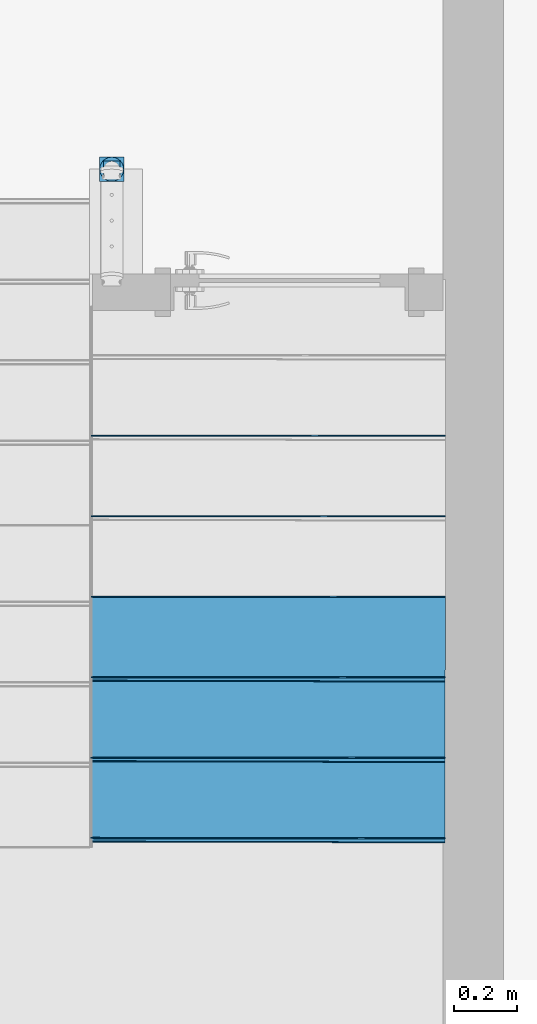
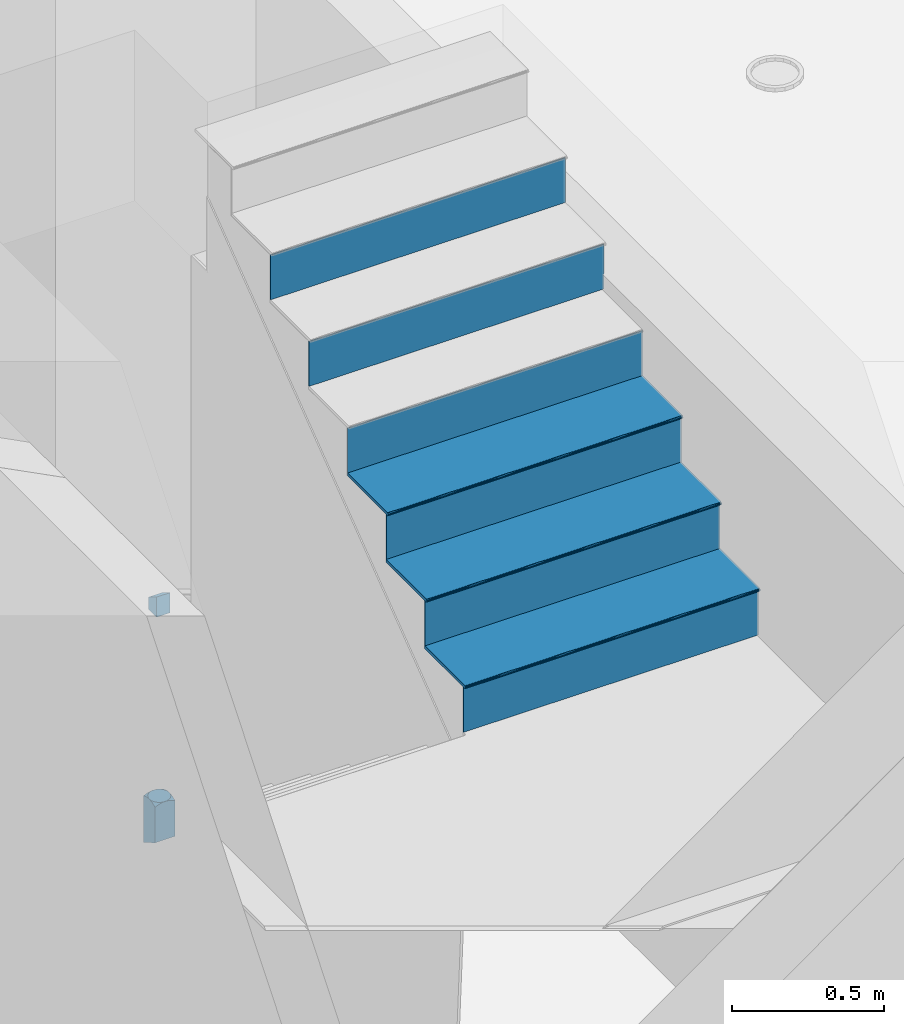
# One storey, part 5 of 24: 10 building element parts, 2 elements without a shape of their own.
"""IFC2X3 building model written with IfcOpenShell, lengths in inches."""

from ifc_helpers import new_model, entity, si_unit, converted_unit, derived_unit, money_unit, direction, frame, origin_with_axes, place, context, subcontext, project, spatial, faceted_brep, material, type_object, element, aggregate, save


model = new_model("IFC2X3")

# Units and contexts
model_context = context("Model", 3, precision=0.000393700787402, world=origin_with_axes(), true_north=direction((0.0, 1.0)))
body_context = subcontext(model_context, "Body", "Model", "MODEL_VIEW")
ifc_project = project(units=[converted_unit("LENGTHUNIT", "INCH", entity("IfcPositiveLengthMeasure", 0.0254), si_unit("LENGTHUNIT", "METRE"), dimensions=[1, 0, 0, 0, 0, 0, 0]), converted_unit("AREAUNIT", "SQUARE_FOOT", entity("IfcPositiveLengthMeasure", 0.09290304), si_unit("AREAUNIT", "SQUARE_METRE"), dimensions=[2, 0, 0, 0, 0, 0, 0]), si_unit("PLANEANGLEUNIT", "RADIAN"), si_unit("SOLIDANGLEUNIT", "STERADIAN"), money_unit("USD"), converted_unit("TIMEUNIT", "Year", entity("IfcTimeMeasure", 31556926.0), si_unit("TIMEUNIT", "SECOND"), dimensions=[0, 0, 1, 0, 0, 0, 0]), si_unit("MASSUNIT", "GRAM", prefix="KILO"), si_unit("THERMODYNAMICTEMPERATUREUNIT", "DEGREE_CELSIUS"), si_unit("LUMINOUSINTENSITYUNIT", "LUMEN"), si_unit("ENERGYUNIT", "JOULE", prefix="MEGA"), derived_unit("THERMALCONDUCTANCEUNIT", [(si_unit("POWERUNIT", "WATT"), 1), (si_unit("LENGTHUNIT", "METRE"), -1), (si_unit("THERMODYNAMICTEMPERATUREUNIT", "KELVIN"), -1)]), derived_unit("SPECIFICHEATCAPACITYUNIT", [(si_unit("ENERGYUNIT", "JOULE"), 1), (si_unit("MASSUNIT", "GRAM", prefix="KILO"), -1), (si_unit("THERMODYNAMICTEMPERATUREUNIT", "KELVIN"), -1)]), derived_unit("MASSDENSITYUNIT", [(si_unit("MASSUNIT", "GRAM", prefix="KILO"), 1), (si_unit("VOLUMEUNIT", "CUBIC_METRE"), -1)])], contexts=[model_context])

# Site, building, storey
site_placement = place(None, origin_with_axes())
site = spatial("IfcSite", under=ifc_project, at=site_placement, Name="Site", CompositionType="ELEMENT")
building_placement = place(site_placement, origin_with_axes())
building = spatial("IfcBuilding", under=site, at=building_placement, Name="Building", CompositionType="ELEMENT")
storey_placement = place(building_placement, origin_with_axes())
storey = spatial("IfcBuildingStorey", under=building, at=storey_placement, Name="First Floor", CompositionType="ELEMENT", Elevation=0.0)

# Stair, building element parts
stair_placement = place(storey_placement, frame((683.15053629, 154.289481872, 0.0), z_axis=(0.0, 0.0, 1.0), x_axis=(1.0, 0.0, 0.0)))
stair = element("IfcStair", 1, at=stair_placement, inside=storey, Name="STAIR-30", ShapeType="NOTDEFINED")
ifc_material_1 = material(Name="Timber - Floor")
building_element_part_1_placement = place(stair_placement, origin_with_axes())
building_element_part_1 = element("IfcBuildingElementPart", 2, at=building_element_part_1_placement, material=ifc_material_1, Name="Timber - Floor", context=body_context, shape_type="Brep", body=[
    faceted_brep([(44.1430763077, -79.541736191, 75.2874015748), (44.1431897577, -79.4167362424, 75.2874015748), (0.140546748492, -79.3751105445, 75.2874015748), (0.140428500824, -79.5001104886, 75.2874015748), (44.1430763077, -79.541736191, 68.2086614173), (44.1431897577, -79.4167362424, 68.2086614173), (0.140546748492, -79.3751105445, 68.2086614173), (0.140428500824, -79.5001104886, 68.2086614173)], [[[0, 1, 2, 3]], [[0, 4, 5, 1]], [[1, 5, 6, 2]], [[3, 2, 6, 7]], [[4, 0, 3, 7]], [[5, 4, 7, 6]]]),
])
building_element_part_2_placement = place(stair_placement, origin_with_axes())
building_element_part_2 = element("IfcBuildingElementPart", 3, at=building_element_part_2_placement, material=ifc_material_1, Name="Timber - Floor", context=body_context, shape_type="Brep", body=[
    faceted_brep([(44.152152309, -69.5417403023, 82.8661417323), (44.152265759, -69.4167403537, 82.8661417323), (0.150006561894, -69.3751150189, 82.8661417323), (0.149888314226, -69.500114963, 82.8661417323), (44.152152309, -69.5417403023, 75.7874015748), (44.152265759, -69.4167403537, 75.7874015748), (0.150006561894, -69.3751150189, 75.7874015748), (0.149888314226, -69.500114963, 75.7874015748)], [[[0, 1, 2, 3]], [[0, 4, 5, 1]], [[1, 5, 6, 2]], [[3, 2, 6, 7]], [[4, 0, 3, 7]], [[5, 4, 7, 6]]]),
])
building_element_part_3_placement = place(stair_placement, origin_with_axes())
building_element_part_3 = element("IfcBuildingElementPart", 4, at=building_element_part_3_placement, material=ifc_material_1, Name="Timber - Floor", context=body_context, shape_type="Brep", body=[
    faceted_brep([(44.1612283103, -59.5417444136, 90.4448818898), (44.1613417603, -59.416744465, 90.4448818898), (0.159466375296, -59.3751194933, 90.4448818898), (0.159348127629, -59.5001194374, 90.4448818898), (44.1612283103, -59.5417444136, 83.3661417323), (44.1613417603, -59.416744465, 83.3661417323), (0.159466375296, -59.3751194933, 83.3661417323), (0.159348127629, -59.5001194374, 83.3661417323)], [[[0, 1, 2, 3]], [[0, 4, 5, 1]], [[1, 5, 6, 2]], [[3, 2, 6, 7]], [[4, 0, 3, 7]], [[5, 4, 7, 6]]]),
])
building_element_part_4_placement = place(stair_placement, origin_with_axes())
building_element_part_4 = element("IfcBuildingElementPart", 5, at=building_element_part_4_placement, material=ifc_material_1, Name="Timber - Floor", context=body_context, shape_type="Brep", body=[
    faceted_brep([(44.1703043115, -49.541748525, 98.0236220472), (44.1704177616, -49.4167485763, 98.0236220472), (0.168926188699, -49.3751239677, 98.0236220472), (0.168807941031, -49.5001239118, 98.0236220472), (44.1703043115, -49.541748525, 90.9448818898), (44.1704177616, -49.4167485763, 90.9448818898), (0.168926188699, -49.3751239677, 90.9448818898), (0.168807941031, -49.5001239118, 90.9448818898)], [[[0, 1, 2, 3]], [[0, 4, 5, 1]], [[1, 5, 6, 2]], [[3, 2, 6, 7]], [[4, 0, 3, 7]], [[5, 4, 7, 6]]]),
])
building_element_part_5_placement = place(stair_placement, origin_with_axes())
building_element_part_5 = element("IfcBuildingElementPart", 6, at=building_element_part_5_placement, material=ifc_material_1, Name="Timber - Floor", context=body_context, shape_type="Brep", body=[
    faceted_brep([(44.1793803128, -39.5417526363, 105.602362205), (44.1794937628, -39.4167526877, 105.602362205), (0.178386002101, -39.3751284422, 105.602362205), (0.178267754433, -39.5001283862, 105.602362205), (44.1793803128, -39.5417526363, 98.5236220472), (44.1794937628, -39.4167526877, 98.5236220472), (0.178386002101, -39.3751284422, 98.5236220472), (0.178267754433, -39.5001283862, 98.5236220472)], [[[0, 1, 2, 3]], [[0, 4, 5, 1]], [[1, 5, 6, 2]], [[3, 2, 6, 7]], [[4, 0, 3, 7]], [[5, 4, 7, 6]]]),
])
building_element_part_6_placement = place(stair_placement, origin_with_axes())
building_element_part_6 = element("IfcBuildingElementPart", 7, at=building_element_part_6_placement, material=ifc_material_1, Name="Timber - Floor", context=body_context, shape_type="Brep", body=[
    faceted_brep([(44.1884563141, -29.5417567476, 113.181102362), (44.1885697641, -29.416756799, 113.181102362), (0.187845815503, -29.3751329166, 113.181102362), (0.187727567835, -29.5001328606, 113.181102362), (44.1884563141, -29.5417567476, 106.102362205), (44.1885697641, -29.416756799, 106.102362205), (0.187845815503, -29.3751329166, 106.102362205), (0.187727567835, -29.5001328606, 106.102362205)], [[[0, 1, 2, 3]], [[0, 4, 5, 1]], [[1, 5, 6, 2]], [[3, 2, 6, 7]], [[4, 0, 3, 7]], [[5, 4, 7, 6]]]),
])
building_element_part_7_placement = place(stair_placement, origin_with_axes())
building_element_part_7 = element("IfcBuildingElementPart", 8, at=building_element_part_7_placement, material=ifc_material_1, Name="Timber - Floor", context=body_context, shape_type="Brep", body=[
    faceted_brep([(0.139969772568, -79.9850335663, 75.451896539), (0.139987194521, -79.9666167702, 75.4124015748), (44.1426540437, -80.0082426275, 75.4124015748), (44.1426366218, -80.0266594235, 75.451896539), (0.13995910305, -79.9963123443, 75.4939895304), (0.139955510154, -80.0001104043, 75.5374015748), (0.13995910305, -79.9963123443, 75.5808136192), (0.139969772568, -79.9850335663, 75.6229066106), (0.139987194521, -79.9666167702, 75.6624015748), (0.140010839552, -79.9416215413, 75.6980984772), (0.140039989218, -79.9108073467, 75.7289126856), (0.140073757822, -79.8751104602, 75.7539079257), (0.140111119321, -79.8356155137, 75.77232473), (0.140150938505, -79.7935225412, 75.7836035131), (0.140192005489, -79.7501105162, 75.7874015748), (0.15000683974, -69.3751145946, 75.7874015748), (0.15000683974, -69.3751145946, 75.2874015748), (0.140192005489, -79.7501105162, 75.2874015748), (0.140150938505, -79.7935225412, 75.2911996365), (0.140111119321, -79.8356155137, 75.3024784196), (0.140073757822, -79.8751104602, 75.3208952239), (0.140039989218, -79.9108073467, 75.345890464), (0.140010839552, -79.9416215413, 75.3767046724), (44.1426776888, -79.9832473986, 75.3767046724), (44.1522657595, -69.4167397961, 75.2874015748), (44.1522657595, -69.4167397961, 75.7874015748), (44.1428588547, -79.7917363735, 75.7874015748), (44.1428177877, -79.8351483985, 75.7836035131), (44.1427779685, -79.877241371, 75.77232473), (44.142740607, -79.9167363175, 75.7539079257), (44.1427068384, -79.952433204, 75.7289126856), (44.1426776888, -79.9832473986, 75.6980984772), (44.1426540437, -80.0082426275, 75.6624015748), (44.1426366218, -80.0266594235, 75.6229066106), (44.1426259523, -80.0379382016, 75.5808136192), (44.1426223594, -80.0417362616, 75.5374015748), (44.1426259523, -80.0379382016, 75.4939895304), (44.1427068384, -79.952433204, 75.345890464), (44.142740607, -79.9167363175, 75.3208952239), (44.1427779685, -79.877241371, 75.3024784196), (44.1428177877, -79.8351483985, 75.2911996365), (44.1428588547, -79.7917363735, 75.2874015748)], [[[0, 1, 2, 3]], [[1, 0, 4, 5, 6, 7, 8, 9, 10, 11, 12, 13, 14, 15, 16, 17, 18, 19, 20, 21, 22]], [[1, 22, 23, 2]], [[24, 25, 26, 27, 28, 29, 30, 31, 32, 33, 34, 35, 36, 3, 2, 23, 37, 38, 39, 40, 41]], [[4, 0, 3, 36]], [[5, 4, 36, 35]], [[6, 5, 35, 34]], [[7, 6, 34, 33]], [[8, 7, 33, 32]], [[9, 8, 32, 31]], [[10, 9, 31, 30]], [[11, 10, 30, 29]], [[12, 11, 29, 28]], [[13, 12, 28, 27]], [[14, 13, 27, 26]], [[15, 14, 26, 25]], [[24, 16, 15, 25]], [[17, 16, 24, 41]], [[18, 17, 41, 40]], [[19, 18, 40, 39]], [[20, 19, 39, 38]], [[21, 20, 38, 37]], [[22, 21, 37, 23]]]),
])
building_element_part_8_placement = place(stair_placement, origin_with_axes())
building_element_part_8 = element("IfcBuildingElementPart", 9, at=building_element_part_8_placement, material=ifc_material_1, Name="Timber - Floor", context=body_context, shape_type="Brep", body=[
    faceted_brep([(0.149470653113, -69.9416257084, 82.9554448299), (0.149499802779, -69.9108115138, 82.9246306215), (44.1517829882, -69.9524368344, 82.9246306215), (44.1517538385, -69.983251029, 82.9554448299), (0.149447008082, -69.9666209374, 82.9911417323), (0.149429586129, -69.9850377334, 83.0306366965), (0.149418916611, -69.9963165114, 83.0727296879), (0.149415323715, -70.0001145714, 83.1161417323), (0.149418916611, -69.9963165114, 83.1595537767), (0.149429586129, -69.9850377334, 83.2016467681), (0.149447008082, -69.9666209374, 83.2411417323), (0.149470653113, -69.9416257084, 83.2768386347), (0.149499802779, -69.9108115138, 83.3076528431), (0.149533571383, -69.8751146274, 83.3326480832), (0.149570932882, -69.8356196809, 83.3510648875), (0.149610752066, -69.7935267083, 83.3623436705), (0.14965181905, -69.7501146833, 83.3661417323), (0.159466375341, -59.3751194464, 83.3661417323), (0.159466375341, -59.3751194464, 82.8661417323), (0.14965181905, -69.7501146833, 82.8661417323), (0.149610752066, -69.7935267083, 82.869939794), (0.149570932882, -69.8356196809, 82.8812185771), (0.149533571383, -69.8751146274, 82.8996353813), (44.1518167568, -69.916739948, 82.8996353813), (44.1613417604, -59.4167442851, 83.3661417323), (44.1519350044, -69.7917400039, 83.3661417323), (44.1518939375, -69.8351520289, 83.3623436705), (44.1518541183, -69.8772450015, 83.3510648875), (44.1518167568, -69.916739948, 83.3326480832), (44.1517829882, -69.9524368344, 83.3076528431), (44.1517538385, -69.983251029, 83.2768386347), (44.1517301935, -70.008246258, 83.2411417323), (44.1517127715, -70.026663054, 83.2016467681), (44.151702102, -70.037941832, 83.1595537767), (44.1516985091, -70.0417398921, 83.1161417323), (44.151702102, -70.037941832, 83.0727296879), (44.1517127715, -70.026663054, 83.0306366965), (44.1517301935, -70.008246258, 82.9911417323), (44.1518541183, -69.8772450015, 82.8812185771), (44.1518939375, -69.8351520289, 82.869939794), (44.1519350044, -69.7917400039, 82.8661417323), (44.1613417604, -59.4167442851, 82.8661417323)], [[[0, 1, 2, 3]], [[4, 5, 6, 7, 8, 9, 10, 11, 12, 13, 14, 15, 16, 17, 18, 19, 20, 21, 22, 1, 0]], [[1, 22, 23, 2]], [[24, 25, 26, 27, 28, 29, 30, 31, 32, 33, 34, 35, 36, 37, 3, 2, 23, 38, 39, 40, 41]], [[4, 0, 3, 37]], [[5, 4, 37, 36]], [[6, 5, 36, 35]], [[7, 6, 35, 34]], [[8, 7, 34, 33]], [[9, 8, 33, 32]], [[10, 9, 32, 31]], [[11, 10, 31, 30]], [[12, 11, 30, 29]], [[13, 12, 29, 28]], [[14, 13, 28, 27]], [[26, 15, 14, 27]], [[16, 15, 26, 25]], [[17, 16, 25, 24]], [[18, 17, 24, 41]], [[19, 18, 41, 40]], [[20, 19, 40, 39]], [[21, 20, 39, 38]], [[22, 21, 38, 23]]]),
])
building_element_part_9_placement = place(stair_placement, origin_with_axes())
building_element_part_9 = element("IfcBuildingElementPart", 10, at=building_element_part_9_placement, material=ifc_material_1, Name="Timber - Floor", context=body_context, shape_type="Brep", body=[
    faceted_brep([(0.158906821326, -59.9666255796, 90.5698818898), (0.158930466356, -59.9416303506, 90.5341849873), (44.1608298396, -59.983255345, 90.5341849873), (44.1608061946, -60.008250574, 90.5698818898), (0.158889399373, -59.9850423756, 90.6093768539), (0.158878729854, -59.9963211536, 90.6514698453), (0.158875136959, -60.0001192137, 90.6948818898), (0.158878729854, -59.9963211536, 90.7382939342), (0.158889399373, -59.9850423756, 90.7803869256), (0.158906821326, -59.9666255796, 90.8198818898), (0.158930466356, -59.9416303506, 90.8555787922), (0.158959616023, -59.9108161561, 90.8863930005), (0.158993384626, -59.8751192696, 90.9113882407), (0.159030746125, -59.8356243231, 90.929805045), (0.15907056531, -59.7935313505, 90.941083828), (0.159111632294, -59.7501193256, 90.9448818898), (0.168926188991, -49.3751236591, 90.9448818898), (0.168926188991, -49.3751236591, 90.4448818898), (0.159111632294, -59.7501193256, 90.4448818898), (0.15907056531, -59.7935313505, 90.4486799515), (0.159030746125, -59.8356243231, 90.4599587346), (0.158993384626, -59.8751192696, 90.4783755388), (0.158959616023, -59.9108161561, 90.503370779), (44.1608589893, -59.9524411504, 90.503370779), (44.1704177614, -49.4167487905, 90.4448818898), (44.1704177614, -49.4167487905, 90.9448818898), (44.1610110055, -59.7917443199, 90.9448818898), (44.1609699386, -59.8351563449, 90.941083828), (44.1609301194, -59.8772493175, 90.929805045), (44.1608927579, -59.916744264, 90.9113882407), (44.1608589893, -59.9524411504, 90.8863930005), (44.1608298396, -59.983255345, 90.8555787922), (44.1608061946, -60.008250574, 90.8198818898), (44.1607887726, -60.02666737, 90.7803869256), (44.1607781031, -60.037946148, 90.7382939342), (44.1607745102, -60.0417442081, 90.6948818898), (44.1607781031, -60.037946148, 90.6514698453), (44.1607887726, -60.02666737, 90.6093768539), (44.1608927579, -59.916744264, 90.4783755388), (44.1609301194, -59.8772493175, 90.4599587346), (44.1609699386, -59.8351563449, 90.4486799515), (44.1610110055, -59.7917443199, 90.4448818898)], [[[0, 1, 2, 3]], [[4, 5, 6, 7, 8, 9, 10, 11, 12, 13, 14, 15, 16, 17, 18, 19, 20, 21, 22, 1, 0]], [[1, 22, 23, 2]], [[24, 25, 26, 27, 28, 29, 30, 31, 32, 33, 34, 35, 36, 37, 3, 2, 23, 38, 39, 40, 41]], [[4, 0, 3, 37]], [[5, 4, 37, 36]], [[6, 5, 36, 35]], [[7, 6, 35, 34]], [[8, 7, 34, 33]], [[9, 8, 33, 32]], [[10, 9, 32, 31]], [[11, 10, 31, 30]], [[12, 11, 30, 29]], [[13, 12, 29, 28]], [[13, 28, 27, 14]], [[15, 14, 27, 26]], [[16, 15, 26, 25]], [[17, 16, 25, 24]], [[18, 17, 24, 41]], [[19, 18, 41, 40]], [[20, 19, 40, 39]], [[21, 20, 39, 38]], [[22, 21, 38, 23]]]),
])
aggregate(stair, [building_element_part_1, building_element_part_2, building_element_part_3, building_element_part_4, building_element_part_5, building_element_part_6, building_element_part_7, building_element_part_8, building_element_part_9])

# Railing, building element part
railing_type = type_object("IfcRailingType", Name="Railing Type", PredefinedType="NOTDEFINED")
railing_placement = place(storey_placement, frame((687.845851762, 140.777338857, -3.51027133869e-07), z_axis=(0.0, 0.0, 1.0), x_axis=(1.0, 0.0, 0.0)))
railing = element("IfcRailing", 11, at=railing_placement, inside=storey, type_object=railing_type, Name="RAILING - 003", PredefinedType="NOTDEFINED")
ifc_material_2 = material(Name="Wood - Structural")
building_element_part_10_placement = place(railing_placement, origin_with_axes())
building_element_part_10 = element("IfcBuildingElementPart", 12, at=building_element_part_10_placement, material=ifc_material_2, Name="Wood - Structural", context=body_context, shape_type="Brep", body=[
    faceted_brep([(-0.470433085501, 18.6596875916, 6.48129850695), (-0.472538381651, 18.6616167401, 6.48129850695), (-0.709854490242, 18.6616167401, 6.60444004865), (-0.73188737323, 18.6353589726, 6.630741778), (-0.608147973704, 18.5219727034, 6.630741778), (-0.468503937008, 18.6575822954, 6.48129850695), (-0.468503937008, 18.6616167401, 6.48129850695), (-3.46446949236, 18.6616167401, 6.48129850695), (-3.22715338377, 18.6616167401, 6.60444004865), (-3.170900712, 18.6616167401, 6.630741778), (-3.01881524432, 18.6616167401, 6.68978033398), (-2.83452934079, 18.6616167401, 6.75292105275), (-2.71553065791, 18.6616167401, 6.78795980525), (-2.66796542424, 18.6616167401, 6.79940400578), (-2.51445928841, 18.6616167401, 6.83001346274), (-2.37042772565, 18.6616167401, 6.85258128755), (-2.23299440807, 18.6616167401, 6.86808083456), (-2.0997369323, 18.6616167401, 6.87714399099), (-1.96850393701, 18.6616167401, 6.88012671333), (-1.83727094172, 18.6616167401, 6.87714399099), (-1.70401346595, 18.6616167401, 6.86808083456), (-1.56658014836, 18.6616167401, 6.85258128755), (-1.42254858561, 18.6616167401, 6.83001346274), (-1.26904244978, 18.6616167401, 6.79940400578), (-1.22147721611, 18.6616167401, 6.78795980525), (-1.10247853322, 18.6616167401, 6.75292105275), (-0.918192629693, 18.6616167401, 6.68978033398), (-0.766107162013, 18.6616167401, 6.630741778), (-0.468503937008, 18.6616167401, -0.883222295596), (-3.46850393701, 18.6616167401, -0.883222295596), (-3.46850393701, 18.6616167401, 6.48129850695), (-0.782649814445, 18.3474708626, 6.78795980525), (-0.890516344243, 18.4463123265, 6.78795980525), (-0.494761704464, 18.3982333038, 6.630741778), (-0.468503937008, 18.4202661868, 6.60444004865), (-0.468503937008, 18.364013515, 6.630741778), (-0.468503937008, 18.2119280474, 6.68978033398), (-0.468503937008, 18.0276421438, 6.75292105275), (-0.468503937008, 17.908643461, 6.78795980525), (-0.468503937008, 17.8610782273, 6.79940400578), (-0.468503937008, 17.7075720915, 6.83001346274), (-0.468503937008, 17.5635405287, 6.85258128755), (-0.468503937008, 17.4261072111, 6.86808083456), (-0.468503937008, 17.2928497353, 6.87714399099), (-0.468503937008, 17.1616167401, 6.88012671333), (-0.468503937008, 17.0303837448, 6.87714399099), (-0.468503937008, 16.897126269, 6.86808083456), (-0.468503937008, 16.7596929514, 6.85258128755), (-0.468503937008, 16.6156613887, 6.83001346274), (-0.468503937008, 16.4621552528, 6.79940400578), (-0.468503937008, 16.4145900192, 6.78795980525), (-0.468503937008, 16.2955913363, 6.75292105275), (-0.468503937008, 16.1113054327, 6.68978033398), (-0.468503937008, 15.9592199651, 6.630741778), (-0.468503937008, 15.9029672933, 6.60444004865), (-0.468503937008, 15.6656511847, 6.48129850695), (-0.468503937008, 15.6616167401, 6.48129850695), (-0.468503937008, 15.6616167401, 0.883222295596), (-3.46657478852, 18.6596875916, 6.48129850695), (-3.32885990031, 18.5219727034, 6.630741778), (-3.20512050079, 18.6353589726, 6.630741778), (-2.93042086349, 18.5353764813, 6.78795980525), (-3.04649152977, 18.4463123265, 6.78795980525), (-2.80702942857, 18.6139854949, 6.78795980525), (-2.59991820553, 18.5156890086, 6.8832222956), (-2.71553065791, 18.4555049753, 6.8832222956), (-2.47950030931, 18.5655677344, 6.8832222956), (-2.35519342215, 18.6047615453, 6.8832222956), (-2.22794359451, 18.632972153, 6.8832222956), (-2.09871927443, 18.6499848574, 6.8832222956), (-1.96850393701, 18.6556701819, 6.8832222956), (-1.83828859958, 18.6499848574, 6.8832222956), (-1.7090642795, 18.632972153, 6.8832222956), (-1.58181445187, 18.6047615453, 6.8832222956), (-1.45750756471, 18.5655677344, 6.8832222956), (-1.33708966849, 18.5156890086, 6.8832222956), (-1.12997844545, 18.6139854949, 6.78795980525), (-1.22147721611, 18.4555049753, 6.8832222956), (-1.00658701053, 18.5353764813, 6.78795980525), (-3.46850393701, 15.6616167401, 0.883222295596), (-3.46850393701, 15.6656511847, 6.48129850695), (-3.46850393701, 15.9029672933, 6.60444004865), (-3.46850393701, 15.9592199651, 6.630741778), (-3.46850393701, 16.1113054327, 6.68978033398), (-3.46850393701, 16.2955913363, 6.75292105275), (-3.46850393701, 16.4145900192, 6.78795980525), (-3.46850393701, 16.4621552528, 6.79940400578), (-3.46850393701, 16.6156613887, 6.83001346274), (-3.46850393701, 16.7596929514, 6.85258128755), (-3.46850393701, 16.897126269, 6.86808083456), (-3.46850393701, 17.0303837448, 6.87714399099), (-3.46850393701, 17.1616167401, 6.88012671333), (-3.46850393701, 17.2928497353, 6.87714399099), (-3.46850393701, 17.4261072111, 6.86808083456), (-3.46850393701, 17.5635405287, 6.85258128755), (-3.46850393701, 17.7075720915, 6.83001346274), (-3.46850393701, 17.8610782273, 6.79940400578), (-3.46850393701, 17.908643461, 6.78795980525), (-3.46850393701, 18.0276421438, 6.75292105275), (-3.46850393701, 18.2119280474, 6.68978033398), (-3.46850393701, 18.364013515, 6.630741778), (-3.46850393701, 18.4202661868, 6.60444004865), (-3.46850393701, 18.6575822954, 6.48129850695), (-3.46850393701, 15.6616167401, 6.48129850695), (-0.683808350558, 18.2396043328, 6.78795980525), (-1.00814489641, 18.3061280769, 6.8832222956), (-0.912048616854, 18.2180720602, 6.8832222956), (-0.594744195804, 18.1235336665, 6.78795980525), (-0.51613518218, 18.0001422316, 6.78795980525), (-0.614431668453, 17.7930310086, 6.8832222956), (-0.674615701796, 17.908643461, 6.8832222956), (-0.564552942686, 17.6726131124, 6.8832222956), (-0.525359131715, 17.5483062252, 6.8832222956), (-0.497148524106, 17.4210563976, 6.8832222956), (-0.480135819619, 17.2918320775, 6.8832222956), (-0.474450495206, 17.1616167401, 6.8832222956), (-0.480135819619, 17.0314014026, 6.8832222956), (-0.497148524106, 16.9021770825, 6.8832222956), (-0.525359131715, 16.7749272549, 6.8832222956), (-0.564552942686, 16.6506203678, 6.8832222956), (-0.614431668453, 16.5302024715, 6.8832222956), (-0.51613518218, 16.3230912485, 6.78795980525), (-0.674615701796, 16.4145900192, 6.8832222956), (-0.594744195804, 16.1996998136, 6.78795980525), (-0.494761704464, 15.9250001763, 6.630741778), (-0.683808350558, 16.0836291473, 6.78795980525), (-0.470433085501, 15.6635458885, 6.48129850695), (-0.608147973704, 15.8012607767, 6.630741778), (-0.472538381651, 15.6616167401, 6.48129850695), (-0.709854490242, 15.6616167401, 6.60444004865), (-0.766107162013, 15.6616167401, 6.630741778), (-0.918192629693, 15.6616167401, 6.68978033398), (-1.10247853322, 15.6616167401, 6.75292105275), (-1.22147721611, 15.6616167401, 6.78795980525), (-1.26904244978, 15.6616167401, 6.79940400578), (-1.42254858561, 15.6616167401, 6.83001346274), (-1.56658014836, 15.6616167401, 6.85258128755), (-1.70401346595, 15.6616167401, 6.86808083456), (-1.83727094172, 15.6616167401, 6.87714399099), (-1.96850393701, 15.6616167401, 6.88012671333), (-2.0997369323, 15.6616167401, 6.87714399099), (-2.23299440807, 15.6616167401, 6.86808083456), (-2.37042772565, 15.6616167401, 6.85258128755), (-2.51445928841, 15.6616167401, 6.83001346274), (-2.66796542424, 15.6616167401, 6.79940400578), (-2.71553065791, 15.6616167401, 6.78795980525), (-2.83452934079, 15.6616167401, 6.75292105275), (-3.01881524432, 15.6616167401, 6.68978033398), (-3.170900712, 15.6616167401, 6.630741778), (-3.22715338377, 15.6616167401, 6.60444004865), (-3.46446949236, 15.6616167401, 6.48129850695), (-3.44224616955, 18.3982333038, 6.630741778), (-3.15435805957, 18.3474708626, 6.78795980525), (-2.92886297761, 18.3061280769, 6.8832222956), (-2.82545778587, 18.3854736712, 6.8832222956), (-3.02495925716, 18.2180720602, 6.8832222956), (-3.11301527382, 18.1219757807, 6.8832222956), (-3.19236086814, 18.0185705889, 6.8832222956), (-3.26239217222, 17.908643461, 6.8832222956), (-3.32257620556, 17.7930310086, 6.8832222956), (-3.37245493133, 17.6726131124, 6.8832222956), (-3.4116487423, 17.5483062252, 6.8832222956), (-3.43985934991, 17.4210563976, 6.8832222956), (-3.4568720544, 17.2918320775, 6.8832222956), (-3.46255737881, 17.1616167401, 6.8832222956), (-3.4568720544, 17.0314014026, 6.8832222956), (-3.43985934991, 16.9021770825, 6.8832222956), (-3.4116487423, 16.7749272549, 6.8832222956), (-3.37245493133, 16.6506203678, 6.8832222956), (-3.32257620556, 16.5302024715, 6.8832222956), (-3.26239217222, 16.4145900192, 6.8832222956), (-3.19236086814, 16.3046628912, 6.8832222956), (-3.11301527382, 16.2012576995, 6.8832222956), (-3.02495925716, 16.1051614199, 6.8832222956), (-2.92886297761, 16.0171054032, 6.8832222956), (-2.82545778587, 15.9377598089, 6.8832222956), (-2.71553065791, 15.8677285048, 6.8832222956), (-2.59991820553, 15.8075444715, 6.8832222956), (-2.47950030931, 15.7576657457, 6.8832222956), (-2.35519342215, 15.7184719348, 6.8832222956), (-2.22794359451, 15.6902613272, 6.8832222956), (-2.09871927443, 15.6732486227, 6.8832222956), (-1.96850393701, 15.6675632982, 6.8832222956), (-1.83828859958, 15.6732486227, 6.8832222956), (-1.7090642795, 15.6902613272, 6.8832222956), (-1.58181445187, 15.7184719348, 6.8832222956), (-1.45750756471, 15.7576657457, 6.8832222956), (-1.33708966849, 15.8075444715, 6.8832222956), (-1.22147721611, 15.8677285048, 6.8832222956), (-1.11155008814, 15.9377598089, 6.8832222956), (-1.00814489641, 16.0171054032, 6.8832222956), (-0.912048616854, 16.1051614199, 6.8832222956), (-0.823992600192, 16.2012576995, 6.8832222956), (-0.744647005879, 16.3046628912, 6.8832222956), (-0.744647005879, 18.0185705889, 6.8832222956), (-0.823992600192, 18.1219757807, 6.8832222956), (-1.11155008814, 18.3854736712, 6.8832222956), (-3.46657478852, 15.6635458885, 6.48129850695), (-3.32885990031, 15.8012607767, 6.630741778), (-3.44224616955, 15.9250001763, 6.630741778), (-3.34226367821, 16.1996998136, 6.78795980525), (-3.25319952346, 16.0836291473, 6.78795980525), (-3.42087269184, 16.3230912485, 6.78795980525), (-3.42087269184, 18.0001422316, 6.78795980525), (-3.34226367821, 18.1235336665, 6.78795980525), (-3.25319952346, 18.2396043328, 6.78795980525), (-0.782649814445, 15.9757626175, 6.78795980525), (-0.73188737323, 15.6878745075, 6.630741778), (-1.00658701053, 15.7878569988, 6.78795980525), (-0.890516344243, 15.8769211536, 6.78795980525), (-1.12997844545, 15.7092479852, 6.78795980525), (-2.80702942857, 15.7092479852, 6.78795980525), (-2.93042086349, 15.7878569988, 6.78795980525), (-3.20512050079, 15.6878745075, 6.630741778), (-3.04649152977, 15.8769211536, 6.78795980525), (-3.15435805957, 15.9757626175, 6.78795980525)], [[[0, 1, 2, 3, 4]], [[1, 0, 5, 6]], [[7, 8, 9, 10, 11, 12, 13, 14, 15, 16, 17, 18, 19, 20, 21, 22, 23, 24, 25, 26, 27, 2, 1, 6, 28, 29, 30]], [[3, 2, 27]], [[31, 4, 3, 32]], [[5, 0, 4, 33, 34]], [[5, 34, 35, 36, 37, 38, 39, 40, 41, 42, 43, 44, 45, 46, 47, 48, 49, 50, 51, 52, 53, 54, 55, 56, 57, 28, 6]], [[7, 58, 59, 60, 8]], [[60, 9, 8]], [[61, 10, 9, 60, 62]], [[63, 11, 10, 61]], [[63, 12, 11]], [[64, 13, 12, 63, 65]], [[66, 14, 13, 64]], [[67, 15, 14, 66]], [[68, 16, 15, 67]], [[69, 17, 16, 68]], [[70, 18, 17, 69]], [[71, 19, 18, 70]], [[72, 20, 19, 71]], [[73, 21, 20, 72]], [[74, 22, 21, 73]], [[75, 23, 22, 74]], [[76, 24, 23, 75, 77]], [[76, 25, 24]], [[78, 26, 25, 76]], [[3, 27, 26, 78, 32]], [[79, 29, 28, 57]], [[80, 81, 82, 83, 84, 85, 86, 87, 88, 89, 90, 91, 92, 93, 94, 95, 96, 97, 98, 99, 100, 101, 102, 30, 29, 79, 103]], [[58, 7, 30, 102]], [[104, 33, 4, 31]], [[32, 105, 106, 31]], [[33, 35, 34]], [[107, 36, 35, 33, 104]], [[108, 37, 36, 107]], [[108, 38, 37]], [[109, 39, 38, 108, 110]], [[111, 40, 39, 109]], [[112, 41, 40, 111]], [[113, 42, 41, 112]], [[114, 43, 42, 113]], [[115, 44, 43, 114]], [[116, 45, 44, 115]], [[117, 46, 45, 116]], [[118, 47, 46, 117]], [[119, 48, 47, 118]], [[120, 49, 48, 119]], [[121, 50, 49, 120, 122]], [[121, 51, 50]], [[123, 52, 51, 121]], [[124, 53, 52, 123, 125]], [[124, 54, 53]], [[126, 55, 54, 124, 127]], [[55, 126, 128, 56]], [[128, 129, 130, 131, 132, 133, 134, 135, 136, 137, 138, 139, 140, 141, 142, 143, 144, 145, 146, 147, 148, 149, 150, 103, 79, 57, 56]], [[58, 102, 101, 151, 59]], [[62, 60, 59, 152]], [[62, 153, 154, 61]], [[61, 154, 65, 63]], [[72, 71, 70, 69, 68, 67, 66, 64, 65, 154, 153, 155, 156, 157, 158, 159, 160, 161, 162, 163, 164, 165, 166, 167, 168, 169, 170, 171, 172, 173, 174, 175, 176, 177, 178, 179, 180, 181, 182, 183, 184, 185, 186, 187, 188, 189, 190, 191, 192, 193, 122, 120, 119, 118, 117, 116, 115, 114, 113, 112, 111, 109, 110, 194, 195, 106, 105, 196, 77, 75, 74, 73]], [[76, 77, 196, 78]], [[78, 196, 105, 32]], [[80, 197, 198, 199, 81]], [[199, 82, 81]], [[200, 83, 82, 199, 201]], [[202, 84, 83, 200]], [[202, 85, 84]], [[169, 86, 85, 202, 170]], [[168, 87, 86, 169]], [[167, 88, 87, 168]], [[166, 89, 88, 167]], [[165, 90, 89, 166]], [[164, 91, 90, 165]], [[163, 92, 91, 164]], [[162, 93, 92, 163]], [[161, 94, 93, 162]], [[160, 95, 94, 161]], [[159, 96, 95, 160]], [[203, 97, 96, 159, 158]], [[203, 98, 97]], [[204, 99, 98, 203]], [[151, 100, 99, 204, 205]], [[151, 101, 100]], [[197, 80, 103, 150]], [[31, 106, 195, 104]], [[104, 195, 194, 107]], [[107, 194, 110, 108]], [[121, 122, 193, 123]], [[123, 193, 192, 125]], [[206, 127, 124, 125]], [[128, 126, 127, 207, 129]], [[207, 130, 129]], [[208, 131, 130, 207, 209]], [[210, 132, 131, 208]], [[210, 133, 132]], [[187, 134, 133, 210, 188]], [[186, 135, 134, 187]], [[185, 136, 135, 186]], [[184, 137, 136, 185]], [[183, 138, 137, 184]], [[182, 139, 138, 183]], [[181, 140, 139, 182]], [[180, 141, 140, 181]], [[179, 142, 141, 180]], [[178, 143, 142, 179]], [[177, 144, 143, 178]], [[211, 145, 144, 177, 176]], [[211, 146, 145]], [[212, 147, 146, 211]], [[213, 148, 147, 212, 214]], [[213, 149, 148]], [[197, 150, 149, 213, 198]], [[152, 59, 151, 205]], [[152, 155, 153, 62]], [[205, 156, 155, 152]], [[204, 157, 156, 205]], [[203, 158, 157, 204]], [[200, 171, 170, 202]], [[201, 172, 171, 200]], [[215, 173, 172, 201]], [[214, 174, 173, 215]], [[212, 175, 174, 214]], [[211, 176, 175, 212]], [[208, 189, 188, 210]], [[209, 190, 189, 208]], [[206, 191, 190, 209]], [[125, 192, 191, 206]], [[201, 199, 198, 215]], [[209, 207, 127, 206]], [[215, 198, 213, 214]]]),
    faceted_brep([(-2.96850393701, 16.1616167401, 39.1714920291), (-2.96850393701, 16.1616167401, 35.9938623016), (-0.968503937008, 16.1616167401, 35.9938623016), (-0.968503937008, 16.1616167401, 39.1714920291), (-2.96850393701, 18.1616167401, 37.9938623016), (-2.96850393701, 18.1616167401, 35.9938623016), (-0.968503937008, 18.1616167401, 35.9938623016), (-0.968503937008, 18.1616167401, 37.9938623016)], [[[0, 1, 2, 3]], [[4, 5, 1, 0]], [[1, 5, 6, 2]], [[3, 2, 6, 7]], [[0, 3, 7, 4]], [[7, 6, 5, 4]]]),
])
aggregate(railing, [building_element_part_10])

save(model, "model.ifc")
